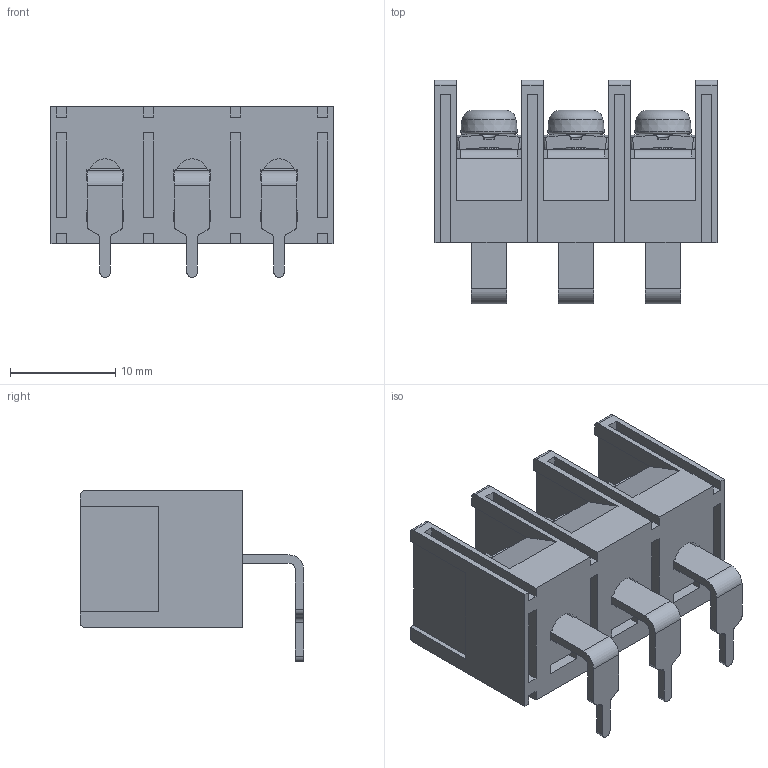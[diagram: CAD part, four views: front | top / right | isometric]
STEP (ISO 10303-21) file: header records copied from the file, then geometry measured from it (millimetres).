
FILE_DESCRIPTION((''),'2;1');
FILE_NAME('3PIN','2021-05-07T',('hanke'),(''),'CREO PARAMETRIC BY PTC INC, 2016260','CREO PARAMETRIC BY PTC INC, 2016260','');
FILE_SCHEMA(('CONFIG_CONTROL_DESIGN'));
Products named in the file (1): 3PIN
Bounding box: 26.75 x 21.2 x 16.2 mm (x, y, z)
Volume: 2656 mm3; surface area: 5262.4 mm2
Topology: 1 solids, 1 shells, 1091 faces, 3204 edges, 2083 vertices
Faces by surface type: plane 651, cylinder 230, bspline 90, torus 66, sphere 36, cone 18
Entity records: 52636 total; most frequent: CARTESIAN_POINT 24549, ORIENTED_EDGE 6396, DIRECTION 5183, EDGE_CURVE 3198, VERTEX_POINT 2083, VECTOR 1955, LINE 1955, AXIS2_PLACEMENT_3D 1614
